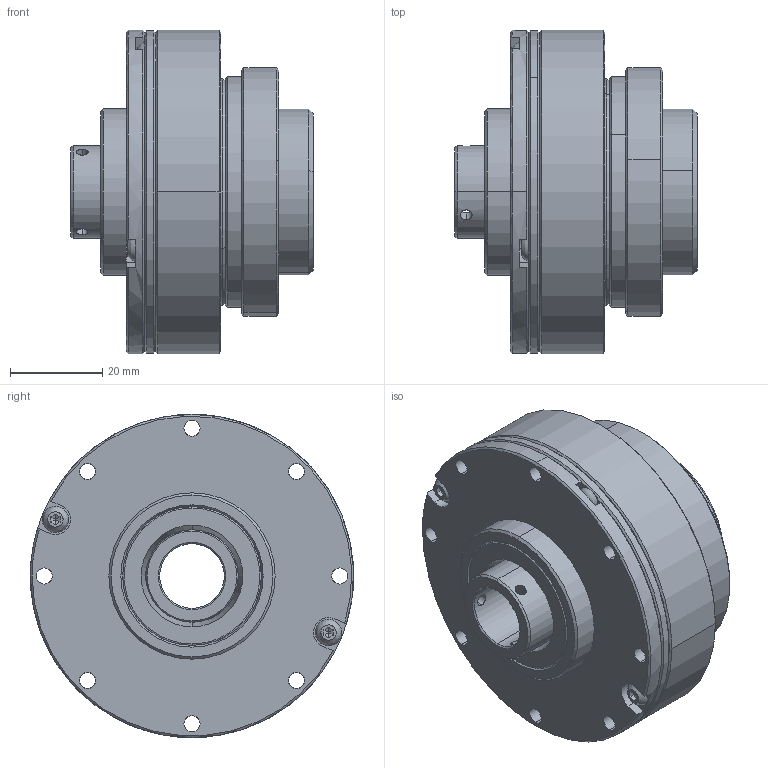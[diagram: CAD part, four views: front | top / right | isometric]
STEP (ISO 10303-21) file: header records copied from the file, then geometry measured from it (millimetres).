
FILE_DESCRIPTION (( 'STEP AP203' ), '1' );
FILE_NAME ('LHSG-14-XXX-C-III.step', '2025-01-07T06:47:05', ( '' ), ( '' ), 'SwSTEP 2.0', 'SolidWorks 2023', '' );
FILE_SCHEMA (( 'CONFIG_CONTROL_DESIGN' ));
Length unit declared in the file: metre
Products named in the file (1): LHSG-14-XXX-C-III
Bounding box: 52.5 x 70 x 70 mm (x, y, z)
Volume: 87471 mm3; surface area: 78691.1 mm2
Topology: 47 solids, 47 shells, 1182 faces, 3293 edges, 2057 vertices
Faces by surface type: cylinder 406, bspline 384, plane 262, cone 130
Entity records: 46604 total; most frequent: CARTESIAN_POINT 18353, ORIENTED_EDGE 6322, DIRECTION 5474, EDGE_CURVE 3161, AXIS2_PLACEMENT_3D 2338, VERTEX_POINT 2057, CIRCLE 1539, EDGE_LOOP 1416
